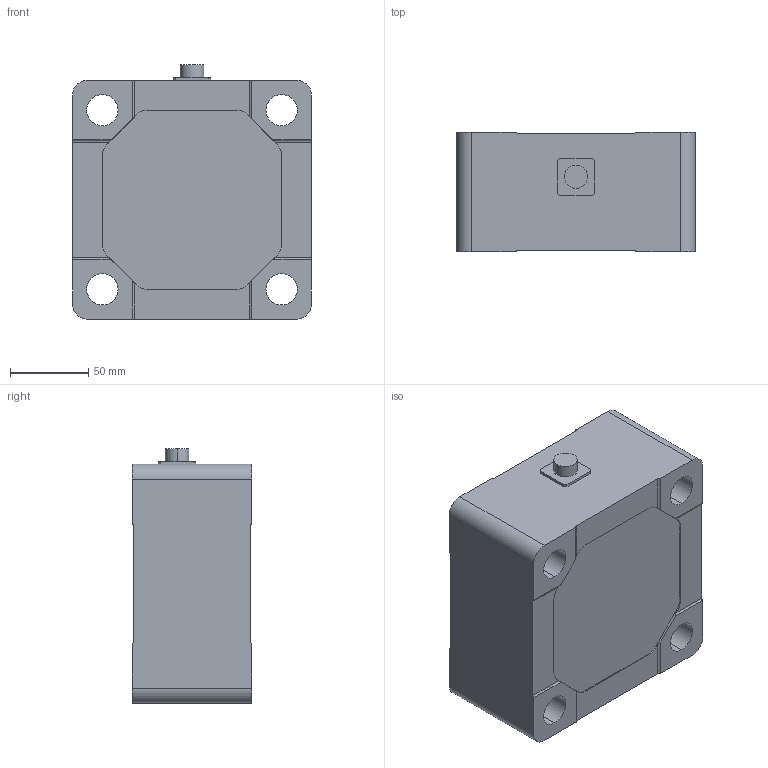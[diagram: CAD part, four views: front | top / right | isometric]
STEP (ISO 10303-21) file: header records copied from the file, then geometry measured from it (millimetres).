
FILE_DESCRIPTION (( 'STEP AP203' ), '1' );
FILE_NAME ('1007068.STEP', '2016-11-15T20:26:55', ( '' ), ( '' ), 'SwSTEP 2.0', 'SolidWorks 2014', '' );
FILE_SCHEMA (( 'CONFIG_CONTROL_DESIGN' ));
Length unit declared in the file: inch
Products named in the file (1): 1007068
Bounding box: 152.4 x 76.2 x 162.26 mm (x, y, z)
Volume: 1622485.7 mm3; surface area: 108956.9 mm2
Topology: 1 solids, 1 shells, 96 faces, 274 edges, 182 vertices
Faces by surface type: cylinder 52, plane 44
Entity records: 3275 total; most frequent: CARTESIAN_POINT 657, ORIENTED_EDGE 548, DIRECTION 522, EDGE_CURVE 274, VERTEX_POINT 182, AXIS2_PLACEMENT_3D 175, VECTOR 172, LINE 172
